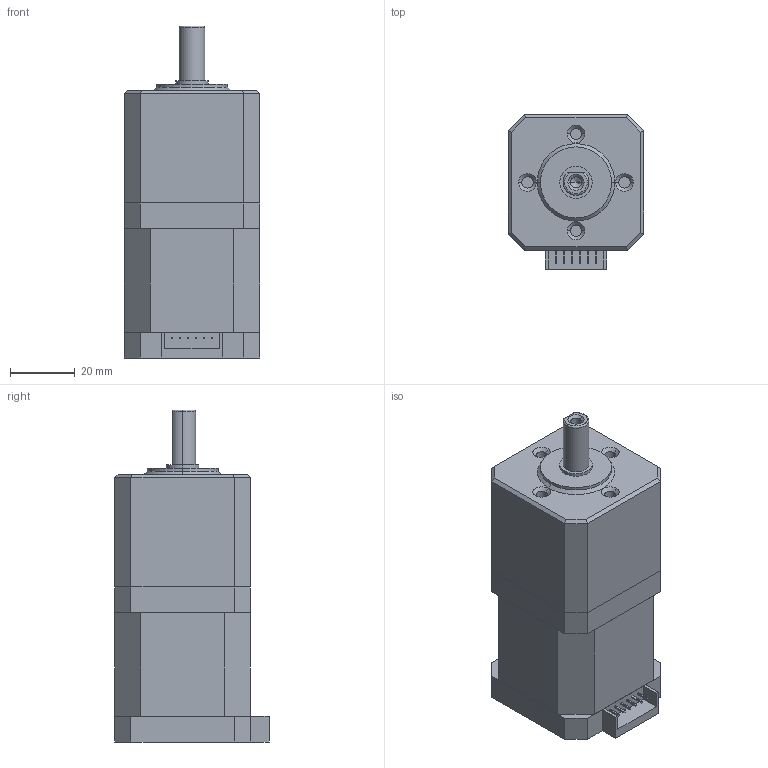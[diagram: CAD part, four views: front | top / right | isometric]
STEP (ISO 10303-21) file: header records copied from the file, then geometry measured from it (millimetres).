
FILE_DESCRIPTION (( 'STEP AP203' ), '1' );
FILE_NAME ('42PG010-D20-0448.STEP', '2019-10-12T08:18:12', ( 'China' ), ( 'Home' ), 'SwSTEP 2.0', 'SolidWorks 2016', '' );
FILE_SCHEMA (( 'CONFIG_CONTROL_DESIGN' ));
Length unit declared in the file: millimetre
Products named in the file (1): 42PG010-D20-0448
Bounding box: 42 x 47.8 x 102.8 mm (x, y, z)
Volume: 141133.3 mm3; surface area: 27412.1 mm2
Topology: 4 solids, 4 shells, 136 faces, 313 edges, 197 vertices
Faces by surface type: plane 94, cone 22, cylinder 17, torus 3
Entity records: 3957 total; most frequent: CARTESIAN_POINT 778, DIRECTION 636, ORIENTED_EDGE 622, EDGE_CURVE 311, LINE 250, VECTOR 250, VERTEX_POINT 197, AXIS2_PLACEMENT_3D 193
